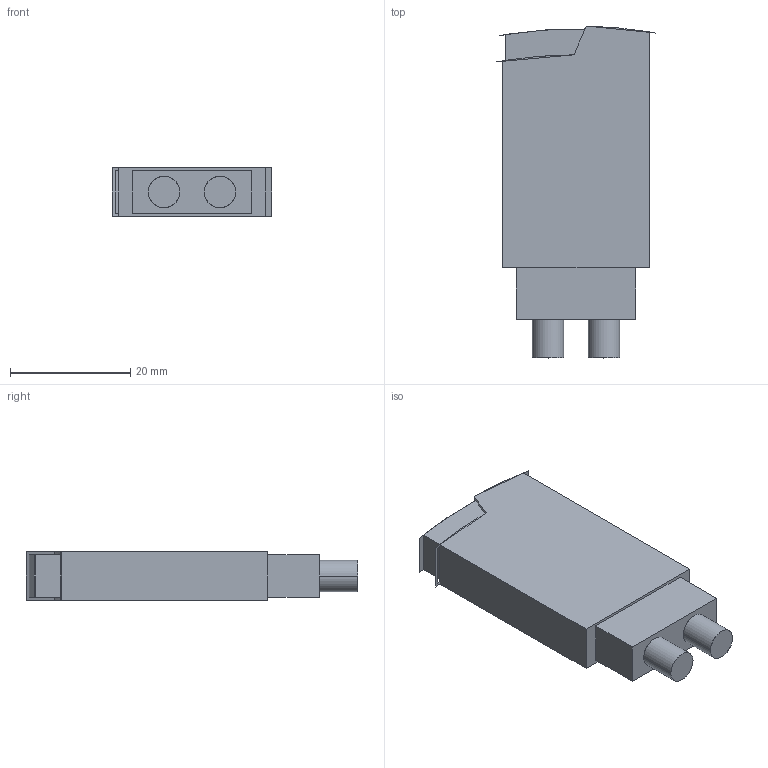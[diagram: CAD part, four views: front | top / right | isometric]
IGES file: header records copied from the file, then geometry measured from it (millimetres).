
Global section: file name: 0712107_tcp01-select.igs; native system: OneSpace Designer 3D IGES; preprocessor: 13.01  05-Feb-2005; date: 20051103.112814; units: millimetre
Bounding box: 26.59 x 55.18 x 8 mm (x, y, z)
Surface area: 3631.5 mm2 (no closed solid volume)
Topology: 0 solids, 0 shells, 23 faces, 164 edges, 164 vertices
Faces by surface type: bspline 23
